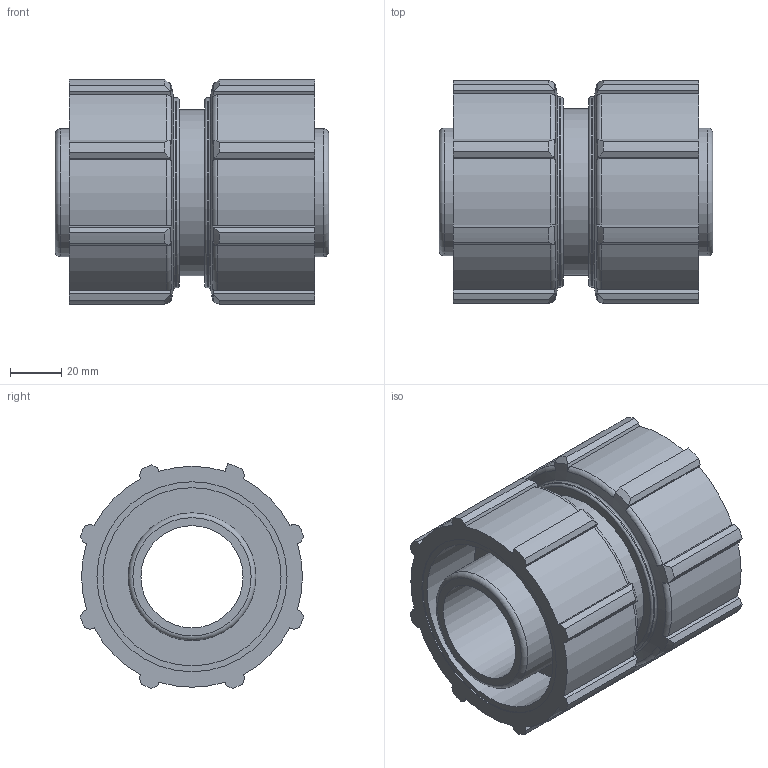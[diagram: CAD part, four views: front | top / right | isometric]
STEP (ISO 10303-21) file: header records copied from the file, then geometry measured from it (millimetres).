
FILE_DESCRIPTION(/* description */ ('PLASSON MODULAR ADAPTOR 50'),/* implementation_level */ '2;1');
FILE_NAME(/* name */ 'C:\Dropbox\KIMPROJECTS-Inventor\99-16-3568-Processing\Mechanical Fittings\07940\079400050__0794060500A.ipt.stp',/* time_stamp */ '2018-07-31T14:20:42+03:00',/* author */ ('KIM'),/* organization */ (''),/* preprocessor_version */ 'ST-DEVELOPER v15.6',/* originating_system */ 'Autodesk Inventor 2015',/* authorisation */ '');
FILE_SCHEMA (('AUTOMOTIVE_DESIGN { 1 0 10303 214 3 1 1 }'));
Length unit declared in the file: millimetre
Products named in the file (1): 079400050__0794060500A
Bounding box: 107 x 87.51 x 88.1 mm (x, y, z)
Volume: 332000.3 mm3; surface area: 77322.9 mm2
Topology: 1 solids, 1 shells, 154 faces, 424 edges, 280 vertices
Faces by surface type: plane 72, cylinder 42, torus 22, cone 18
Full cylindrical faces by diameter (mm): 40 x1, 50 x2, 65.1 x1, 69.75 x2, 74.4 x4
Entity records: 4850 total; most frequent: CARTESIAN_POINT 983, ORIENTED_EDGE 808, DIRECTION 808, EDGE_CURVE 404, AXIS2_PLACEMENT_3D 309, VERTEX_POINT 278, LINE 190, VECTOR 190
